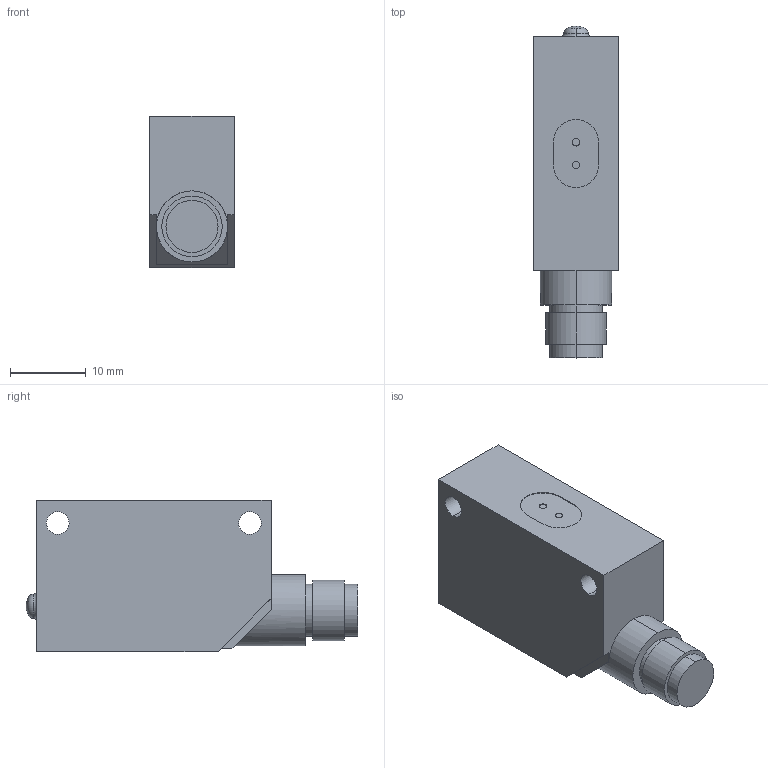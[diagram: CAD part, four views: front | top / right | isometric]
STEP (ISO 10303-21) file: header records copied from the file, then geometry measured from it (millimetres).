
FILE_DESCRIPTION (( 'STEP AP203' ), '1' );
FILE_NAME ('cx-f121-z-w_STEP.STEP', '2025-06-17T02:34:41', ( '' ), ( '' ), 'SwSTEP 2.0', 'SolidWorks 2022', '' );
FILE_SCHEMA (( 'CONFIG_CONTROL_DESIGN' ));
Length unit declared in the file: millimetre
Products named in the file (1): cx-f121-z-w_STEP
Bounding box: 11.2 x 43.9 x 20 mm (x, y, z)
Volume: 7350.5 mm3; surface area: 2952 mm2
Topology: 5 solids, 5 shells, 82 faces, 187 edges, 123 vertices
Faces by surface type: plane 56, cylinder 18, torus 4, sphere 4
Entity records: 2343 total; most frequent: CARTESIAN_POINT 397, DIRECTION 396, ORIENTED_EDGE 364, EDGE_CURVE 182, AXIS2_PLACEMENT_3D 135, VECTOR 126, LINE 126, VERTEX_POINT 120
